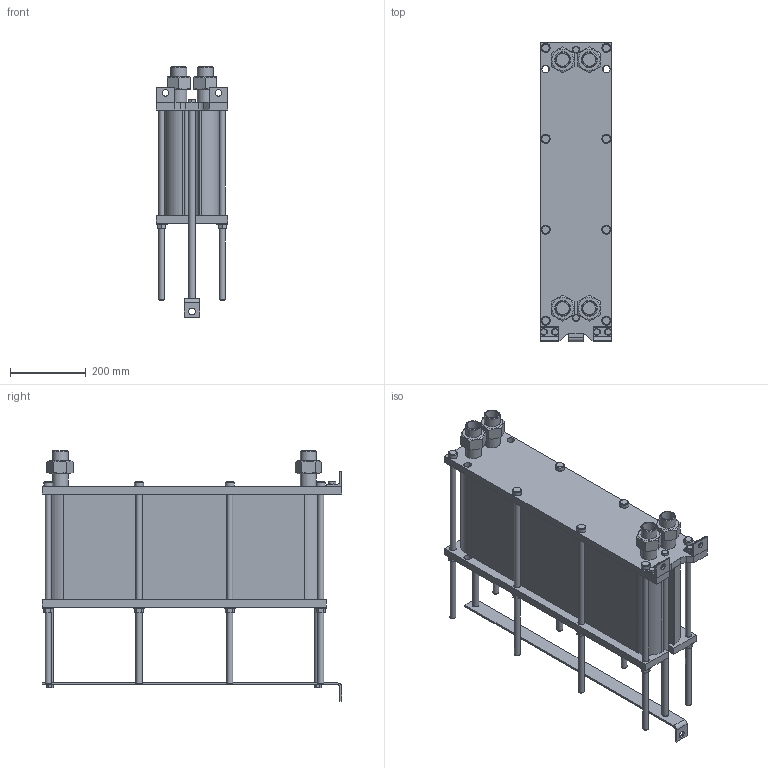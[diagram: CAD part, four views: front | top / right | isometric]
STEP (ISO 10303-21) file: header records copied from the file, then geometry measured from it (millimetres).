
FILE_DESCRIPTION(/* description */ (''),/* implementation_level */ '2;1');
FILE_NAME(/* name */ 'C:\Users\zhuro\Desktop\ENCO\TO\ЭН-008\ЭН-0,5-008-90-1.stp',/* time_stamp */ '2022-06-06T10:53:42+03:00',/* author */ ('zhuro'),/* organization */ (''),/* preprocessor_version */ 'ST-DEVELOPER v18.1',/* originating_system */ 'Autodesk Inventor 2022',/* authorisation */ '');
FILE_SCHEMA (('AUTOMOTIVE_DESIGN { 1 0 10303 214 3 1 1 }'));
Length unit declared in the file: millimetre
Products named in the file (1): ЭН-0,5-008-90-1
Bounding box: 190 x 790 x 661 mm (x, y, z)
Volume: 35368973 mm3; surface area: 1936936.5 mm2
Topology: 40 solids, 40 shells, 428 faces, 924 edges, 606 vertices
Faces by surface type: plane 273, cylinder 109, cone 40, torus 6
Full cylindrical faces by diameter (mm): 12 x6, 14 x2, 16 x20, 17 x8, 18 x19, 20 x5, 24 x8, 28 x8, 34.3 x8, 42.3 x8
Entity records: 15843 total; most frequent: CARTESIAN_POINT 5991, DIRECTION 1984, ORIENTED_EDGE 1848, EDGE_CURVE 924, AXIS2_PLACEMENT_3D 715, VERTEX_POINT 606, LINE 554, VECTOR 554
